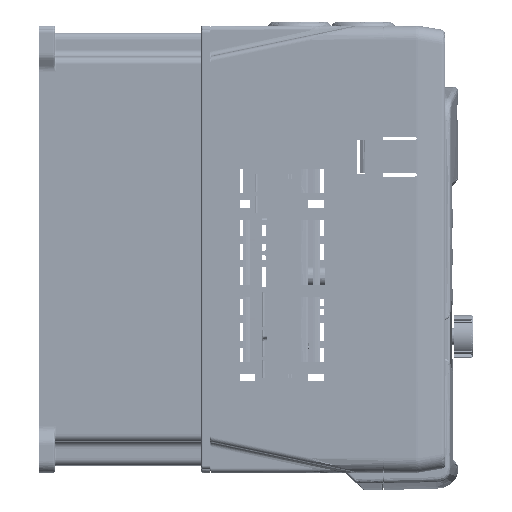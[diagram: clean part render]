
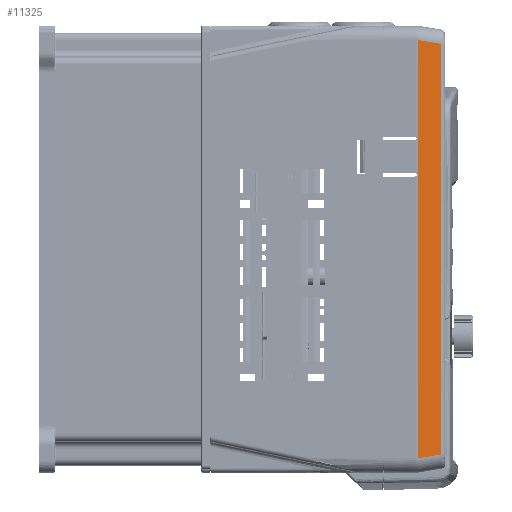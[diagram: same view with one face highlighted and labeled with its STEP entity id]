
A CAD part, left-side view. The second image highlights one B-rep face of the part: STEP entity #11325.
In plain terms, the highlighted planar face has unit normal (-0.986, -0.164, 0) as drawn and (0.986, 0, 0.164) by its records, which use the part's own axes.
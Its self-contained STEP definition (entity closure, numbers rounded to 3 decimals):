
#6783 = CARTESIAN_POINT ( 'NONE',  ( 61.292, 2.275, -1.504 ) ) ;
#11325 = ADVANCED_FACE ( 'NONE', ( #212194 ), #92458, .T. ) ;
#21839 = ORIENTED_EDGE ( 'NONE', *, *, #139806, .F. ) ;
#22530 = VERTEX_POINT ( 'NONE', #142980 ) ;
#37716 = VERTEX_POINT ( 'NONE', #176913 ) ;
#42608 = ORIENTED_EDGE ( 'NONE', *, *, #139051, .F. ) ;
#49942 = AXIS2_PLACEMENT_3D ( 'NONE', #216521, #215593, #113412 ) ;
#52579 = VECTOR ( 'NONE', #245502, 1000. ) ;
#58001 = VECTOR ( 'NONE', #258623, 1000. ) ;
#71171 = LINE ( 'NONE', #6783, #58001 ) ;
#75831 = CARTESIAN_POINT ( 'NONE',  ( 62.385, 176.467, -8.064 ) ) ;
#92458 = PLANE ( 'NONE',  #49942 ) ;
#95942 = CARTESIAN_POINT ( 'NONE',  ( 61.839, 175.92, -4.784 ) ) ;
#96017 = ORIENTED_EDGE ( 'NONE', *, *, #269491, .T. ) ;
#113412 = DIRECTION ( 'NONE',  ( 0.164, 0., -0.986 ) ) ;
#118722 = CARTESIAN_POINT ( 'NONE',  ( 61.292, 4.626, -1.504 ) ) ;
#122010 = VERTEX_POINT ( 'NONE', #176415 ) ;
#133715 = VECTOR ( 'NONE', #270450, 1000. ) ;
#136605 = VERTEX_POINT ( 'NONE', #162567 ) ;
#137643 = EDGE_CURVE ( 'NONE', #37716, #122010, #146756, .T. ) ;
#139051 = EDGE_CURVE ( 'NONE', #136605, #22530, #71171, .T. ) ;
#139806 = EDGE_CURVE ( 'NONE', #22530, #122010, #221419, .T. ) ;
#142980 = CARTESIAN_POINT ( 'NONE',  ( 61.292, 175.374, -1.504 ) ) ;
#146756 = LINE ( 'NONE', #269560, #133715 ) ;
#157940 = CARTESIAN_POINT ( 'NONE',  ( 61.292, 175.374, -1.504 ) ) ;
#162567 = CARTESIAN_POINT ( 'NONE',  ( 61.292, 4.626, -1.504 ) ) ;
#176415 = CARTESIAN_POINT ( 'NONE',  ( 62.932, 177.014, -11.343 ) ) ;
#176913 = CARTESIAN_POINT ( 'NONE',  ( 62.932, 2.986, -11.343 ) ) ;
#201717 = CARTESIAN_POINT ( 'NONE',  ( 62.932, 177.014, -11.343 ) ) ;
#209074 = LINE ( 'NONE', #118722, #52579 ) ;
#212194 = FACE_OUTER_BOUND ( 'NONE', #217955, .T. ) ;
#215593 = DIRECTION ( 'NONE',  ( 0.986, 0., 0.164 ) ) ;
#216521 = CARTESIAN_POINT ( 'NONE',  ( 61.959, 86.6, -5.507 ) ) ;
#217955 = EDGE_LOOP ( 'NONE', ( #96017, #251403, #21839, #42608 ) ) ;
#221419 = B_SPLINE_CURVE_WITH_KNOTS ( 'NONE', 3,
 ( #157940, #95942, #75831, #201717 ),
 .UNSPECIFIED., .F., .F.,
 ( 4, 4 ),
 ( 0., 1. ),
 .UNSPECIFIED. ) ;
#245502 = DIRECTION ( 'NONE',  ( 0.162, -0.162, -0.973 ) ) ;
#251403 = ORIENTED_EDGE ( 'NONE', *, *, #137643, .T. ) ;
#258623 = DIRECTION ( 'NONE',  ( 0., 1., 0. ) ) ;
#269491 = EDGE_CURVE ( 'NONE', #136605, #37716, #209074, .T. ) ;
#269560 = CARTESIAN_POINT ( 'NONE',  ( 62.932, 86.6, -11.343 ) ) ;
#270450 = DIRECTION ( 'NONE',  ( 0., 1., 0. ) ) ;
